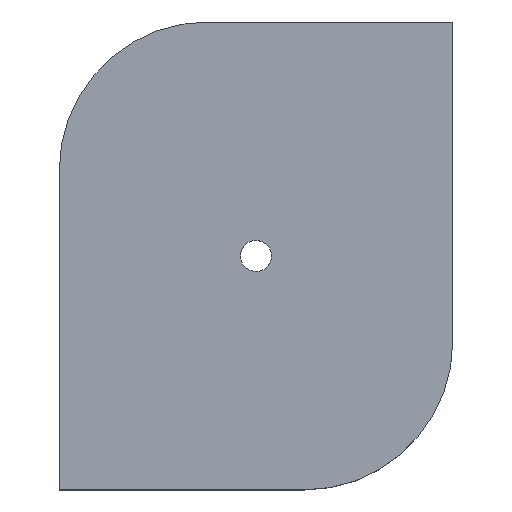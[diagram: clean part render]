
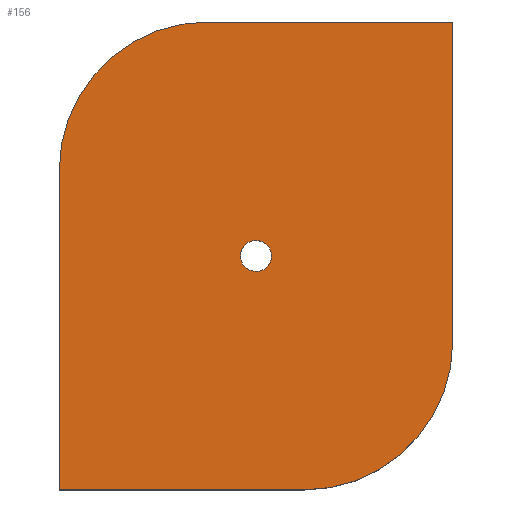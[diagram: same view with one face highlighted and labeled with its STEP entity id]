
A CAD part, top view. The second image highlights one B-rep face of the part: STEP entity #156.
In plain terms, the highlighted planar face has unit normal (0, 0, 1).
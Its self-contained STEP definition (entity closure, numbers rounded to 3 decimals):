
#63=CARTESIAN_POINT('Vertex',(49.325,65.008,21.)) ;
#77=CARTESIAN_POINT('Vertex',(56.675,60.992,21.)) ;
#80=CARTESIAN_POINT('Axis2P3D Location',(53.,63.,21.)) ;
#92=CARTESIAN_POINT('Axis2P3D Location',(0.,0.,21.)) ;
#97=CARTESIAN_POINT('Line Origine',(0.,43.,21.)) ;
#101=CARTESIAN_POINT('Vertex',(0.,86.,21.)) ;
#103=CARTESIAN_POINT('Vertex',(0.,0.,21.)) ;
#106=CARTESIAN_POINT('Line Origine',(33.,0.,21.)) ;
#110=CARTESIAN_POINT('Vertex',(66.,0.,21.)) ;
#113=CARTESIAN_POINT('Axis2P3D Location',(66.,40.,21.)) ;
#117=CARTESIAN_POINT('Vertex',(106.,40.,21.)) ;
#120=CARTESIAN_POINT('Line Origine',(106.,83.,21.)) ;
#124=CARTESIAN_POINT('Vertex',(106.,126.,21.)) ;
#127=CARTESIAN_POINT('Line Origine',(73.,126.,21.)) ;
#131=CARTESIAN_POINT('Vertex',(40.,126.,21.)) ;
#134=CARTESIAN_POINT('Axis2P3D Location',(40.,86.,21.)) ;
#147=CARTESIAN_POINT('Axis2P3D Location',(53.,63.,21.)) ;
#81=DIRECTION('Axis2P3D Direction',(0.,-0.,-1.)) ;
#93=DIRECTION('Axis2P3D Direction',(0.,0.,1.)) ;
#94=DIRECTION('Axis2P3D XDirection',(1.,0.,0.)) ;
#98=DIRECTION('Vector Direction',(0.,-1.,0.)) ;
#107=DIRECTION('Vector Direction',(1.,0.,0.)) ;
#114=DIRECTION('Axis2P3D Direction',(0.,0.,1.)) ;
#121=DIRECTION('Vector Direction',(0.,1.,0.)) ;
#128=DIRECTION('Vector Direction',(-1.,0.,0.)) ;
#135=DIRECTION('Axis2P3D Direction',(0.,0.,1.)) ;
#148=DIRECTION('Axis2P3D Direction',(0.,0.,1.)) ;
#82=AXIS2_PLACEMENT_3D('Circle Axis2P3D',#80,#81,$) ;
#95=AXIS2_PLACEMENT_3D('Plane Axis2P3D',#92,#93,#94) ;
#115=AXIS2_PLACEMENT_3D('Circle Axis2P3D',#113,#114,$) ;
#136=AXIS2_PLACEMENT_3D('Circle Axis2P3D',#134,#135,$) ;
#149=AXIS2_PLACEMENT_3D('Circle Axis2P3D',#147,#148,$) ;
#140=ORIENTED_EDGE('',*,*,#105,.T.) ;
#141=ORIENTED_EDGE('',*,*,#112,.T.) ;
#142=ORIENTED_EDGE('',*,*,#119,.F.) ;
#143=ORIENTED_EDGE('',*,*,#126,.T.) ;
#144=ORIENTED_EDGE('',*,*,#133,.T.) ;
#145=ORIENTED_EDGE('',*,*,#138,.F.) ;
#153=ORIENTED_EDGE('',*,*,#151,.F.) ;
#154=ORIENTED_EDGE('',*,*,#84,.F.) ;
#155=FACE_BOUND('',#152,.T.) ;
#99=VECTOR('Line Direction',#98,1.) ;
#108=VECTOR('Line Direction',#107,1.) ;
#122=VECTOR('Line Direction',#121,1.) ;
#129=VECTOR('Line Direction',#128,1.) ;
#156=ADVANCED_FACE('PartBody',(#146,#155),#96,.T.) ;
#83=CIRCLE('generated circle',#82,4.188) ;
#116=CIRCLE('generated circle',#115,40.) ;
#137=CIRCLE('generated circle',#136,40.) ;
#150=CIRCLE('generated circle',#149,4.188) ;
#84=EDGE_CURVE('',#78,#64,#83,.F.) ;
#105=EDGE_CURVE('',#102,#104,#100,.T.) ;
#112=EDGE_CURVE('',#104,#111,#109,.T.) ;
#119=EDGE_CURVE('',#118,#111,#116,.F.) ;
#126=EDGE_CURVE('',#118,#125,#123,.T.) ;
#133=EDGE_CURVE('',#125,#132,#130,.T.) ;
#138=EDGE_CURVE('',#102,#132,#137,.F.) ;
#151=EDGE_CURVE('',#64,#78,#150,.T.) ;
#139=EDGE_LOOP('',(#140,#141,#142,#143,#144,#145)) ;
#152=EDGE_LOOP('',(#153,#154)) ;
#146=FACE_OUTER_BOUND('',#139,.T.) ;
#100=LINE('Line',#97,#99) ;
#109=LINE('Line',#106,#108) ;
#123=LINE('Line',#120,#122) ;
#130=LINE('Line',#127,#129) ;
#96=PLANE('',#95) ;
#64=VERTEX_POINT('',#63) ;
#78=VERTEX_POINT('',#77) ;
#102=VERTEX_POINT('',#101) ;
#104=VERTEX_POINT('',#103) ;
#111=VERTEX_POINT('',#110) ;
#118=VERTEX_POINT('',#117) ;
#125=VERTEX_POINT('',#124) ;
#132=VERTEX_POINT('',#131) ;
